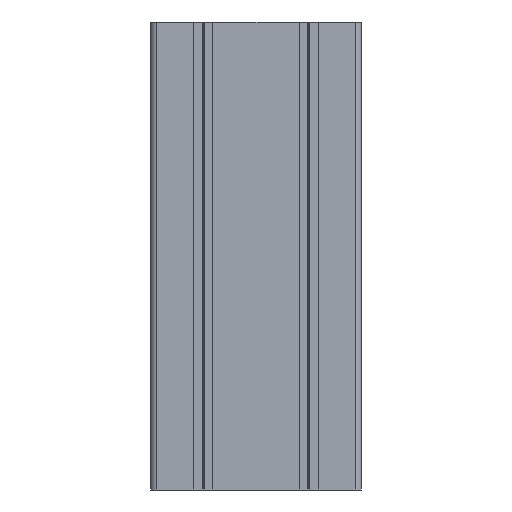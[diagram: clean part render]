
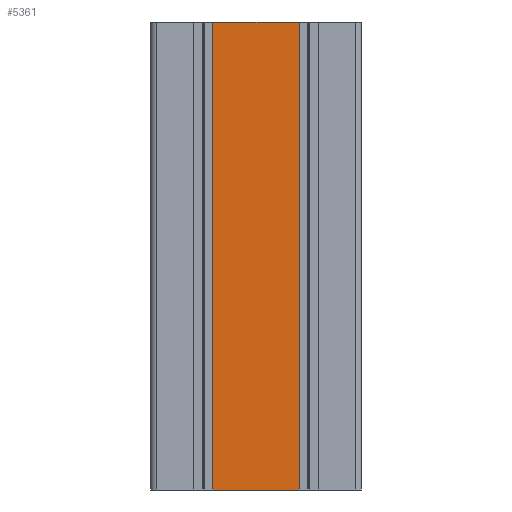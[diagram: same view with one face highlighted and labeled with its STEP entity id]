
A CAD part, front view. The second image highlights one B-rep face of the part: STEP entity #5361.
In plain terms, the highlighted planar face has unit normal (0, -1, 0).
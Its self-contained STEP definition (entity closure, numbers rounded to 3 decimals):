
#216 = CARTESIAN_POINT ( 'NONE',  ( -18.4, -22.5, 200. ) ) ;
#508 = VECTOR ( 'NONE', #1378, 1000. ) ;
#513 = LINE ( 'NONE', #1074, #508 ) ;
#545 = DIRECTION ( 'NONE',  ( 0., 0., -1. ) ) ;
#946 = CARTESIAN_POINT ( 'NONE',  ( 18.4, -22.5, 200. ) ) ;
#1035 = CARTESIAN_POINT ( 'NONE',  ( -18.4, -22.5, 200. ) ) ;
#1065 = DIRECTION ( 'NONE',  ( 0., 0., -1. ) ) ;
#1074 = CARTESIAN_POINT ( 'NONE',  ( -18.4, -22.5, 0. ) ) ;
#1378 = DIRECTION ( 'NONE',  ( 1., 0., 0. ) ) ;
#1973 = VERTEX_POINT ( 'NONE', #5996 ) ;
#2048 = VERTEX_POINT ( 'NONE', #5208 ) ;
#2136 = CARTESIAN_POINT ( 'NONE',  ( -18.4, -22.5, 200. ) ) ;
#2142 = VECTOR ( 'NONE', #2143, 1000. ) ;
#2143 = DIRECTION ( 'NONE',  ( 1., 0., 0. ) ) ;
#2154 = LINE ( 'NONE', #2136, #2142 ) ;
#2999 = ORIENTED_EDGE ( 'NONE', *, *, #4036, .T. ) ;
#3066 = ORIENTED_EDGE ( 'NONE', *, *, #4979, .F. ) ;
#3183 = ORIENTED_EDGE ( 'NONE', *, *, #3490, .F. ) ;
#3292 = ORIENTED_EDGE ( 'NONE', *, *, #4950, .T. ) ;
#3429 = DIRECTION ( 'NONE',  ( 0., 0., 1. ) ) ;
#3434 = DIRECTION ( 'NONE',  ( 0., 1., 0. ) ) ;
#3490 = EDGE_CURVE ( 'NONE', #5895, #5352, #2154, .T. ) ;
#3499 = CARTESIAN_POINT ( 'NONE',  ( -18.4, -22.5, 200. ) ) ;
#3514 = CARTESIAN_POINT ( 'NONE',  ( 18.4, -22.5, 200. ) ) ;
#3563 = PLANE ( 'NONE',  #6052 ) ;
#4036 = EDGE_CURVE ( 'NONE', #1973, #2048, #513, .T. ) ;
#4785 = EDGE_LOOP ( 'NONE', ( #2999, #3066, #3183, #3292 ) ) ;
#4950 = EDGE_CURVE ( 'NONE', #5895, #1973, #5598, .T. ) ;
#4979 = EDGE_CURVE ( 'NONE', #5352, #2048, #5473, .T. ) ;
#5027 = FACE_OUTER_BOUND ( 'NONE', #4785, .T. ) ;
#5208 = CARTESIAN_POINT ( 'NONE',  ( 18.4, -22.5, 0. ) ) ;
#5352 = VERTEX_POINT ( 'NONE', #3514 ) ;
#5361 = ADVANCED_FACE ( 'NONE', ( #5027 ), #3563, .F. ) ;
#5457 = VECTOR ( 'NONE', #545, 1000. ) ;
#5473 = LINE ( 'NONE', #946, #5457 ) ;
#5531 = VECTOR ( 'NONE', #1065, 1000. ) ;
#5598 = LINE ( 'NONE', #1035, #5531 ) ;
#5895 = VERTEX_POINT ( 'NONE', #216 ) ;
#5996 = CARTESIAN_POINT ( 'NONE',  ( -18.4, -22.5, 0. ) ) ;
#6052 = AXIS2_PLACEMENT_3D ( 'NONE', #3499, #3434, #3429 ) ;
